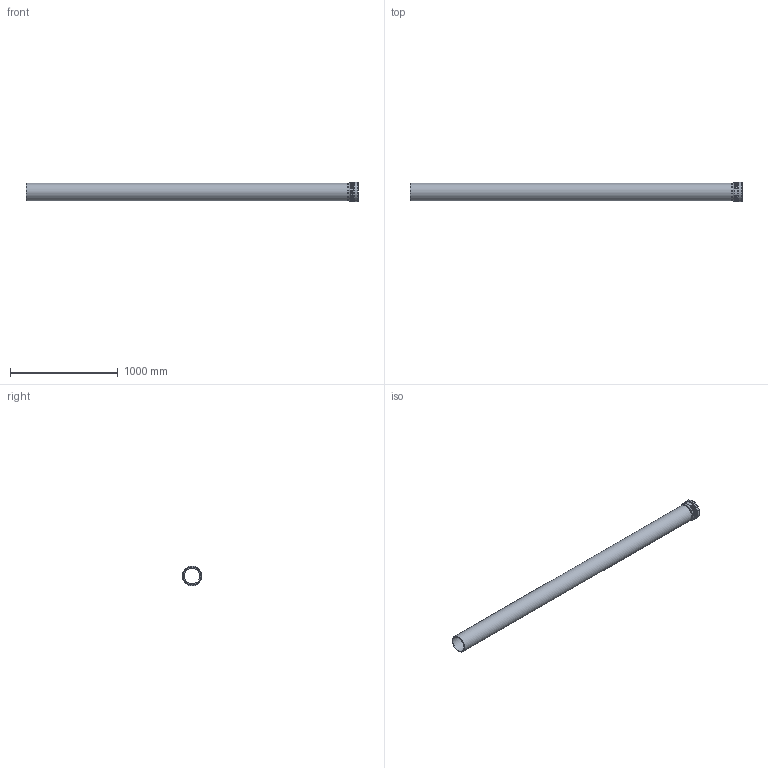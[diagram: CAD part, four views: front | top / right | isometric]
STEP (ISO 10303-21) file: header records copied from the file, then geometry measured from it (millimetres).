
FILE_DESCRIPTION(/* description */ (''),/* implementation_level */ '2;1');
FILE_NAME(/* name */ 'H:\Geberit-Teile\Export\PP_Rohr\stp\393707.stp',/* time_stamp */ '2017-02-13T16:11:10+01:00',/* author */ ('seihe2'),/* organization */ (''),/* preprocessor_version */ 'ST-DEVELOPER v15.2',/* originating_system */ 'Autodesk Inventor 2014',/* authorisation */ '');
FILE_SCHEMA (('AUTOMOTIVE_DESIGN { 1 0 10303 214 3 1 1 }'));
Length unit declared in the file: millimetre
Products named in the file (1): 393707
Bounding box: 3080.6 x 184.86 x 184.86 mm (x, y, z)
Volume: 9034752.7 mm3; surface area: 3032590.3 mm2
Topology: 2 solids, 2 shells, 38 faces, 79 edges, 54 vertices
Faces by surface type: torus 18, cylinder 10, plane 8, cone 2
Full cylindrical faces by diameter (mm): 148.25 x2, 160.25 x2, 161.4 x1, 164.8 x1, 172.2 x1, 174.6 x1, 175.6 x1, 184.86 x1
Entity records: 2318 total; most frequent: CARTESIAN_POINT 1552, DIRECTION 128, ORIENTED_EDGE 118, EDGE_LOOP 70, AXIS2_PLACEMENT_3D 64, EDGE_CURVE 59, VERTEX_POINT 53, STYLED_ITEM 40
